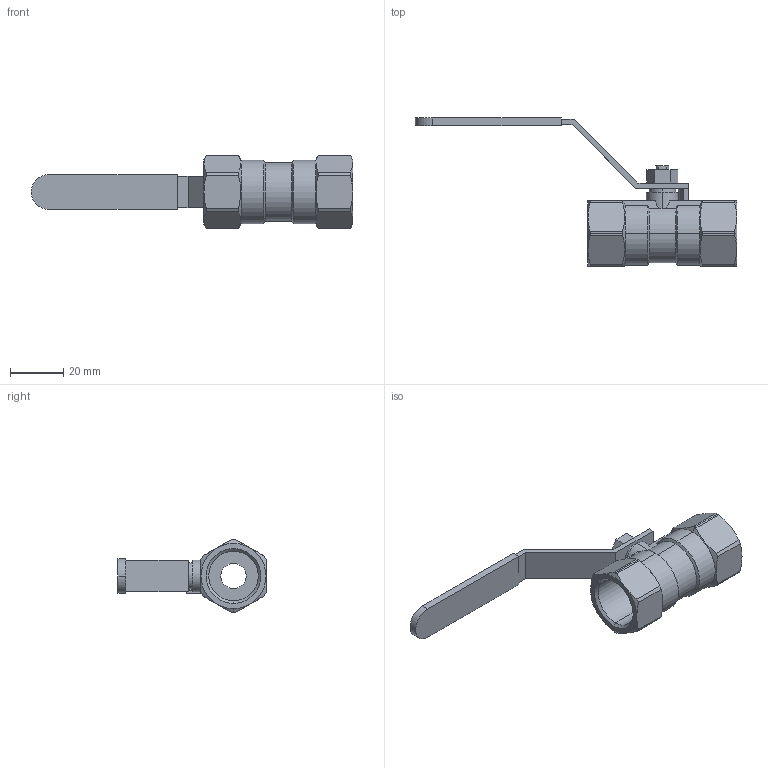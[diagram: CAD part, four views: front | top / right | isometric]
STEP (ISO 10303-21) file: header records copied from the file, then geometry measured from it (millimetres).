
FILE_DESCRIPTION (( 'STEP AP203' ), '1' );
FILE_NAME ('A3.622I015XFVPB0.STEP', '2018-11-06T08:22:55', ( '' ), ( '' ), 'SwSTEP 2.0', 'SolidWorks 2014', '' );
FILE_SCHEMA (( 'CONFIG_CONTROL_DESIGN' ));
Length unit declared in the file: millimetre
Products named in the file (1): A3.622I015XFVPB0
Bounding box: 121 x 55.75 x 27.5 mm (x, y, z)
Volume: 21061.1 mm3; surface area: 11570 mm2
Topology: 1 solids, 1 shells, 121 faces, 305 edges, 193 vertices
Faces by surface type: plane 51, cylinder 40, cone 30
Entity records: 3910 total; most frequent: CARTESIAN_POINT 952, ORIENTED_EDGE 610, DIRECTION 596, EDGE_CURVE 305, AXIS2_PLACEMENT_3D 224, VERTEX_POINT 193, VECTOR 148, LINE 148
